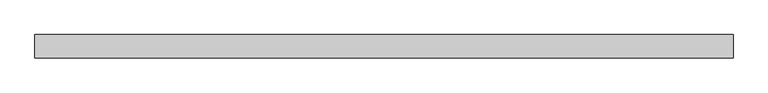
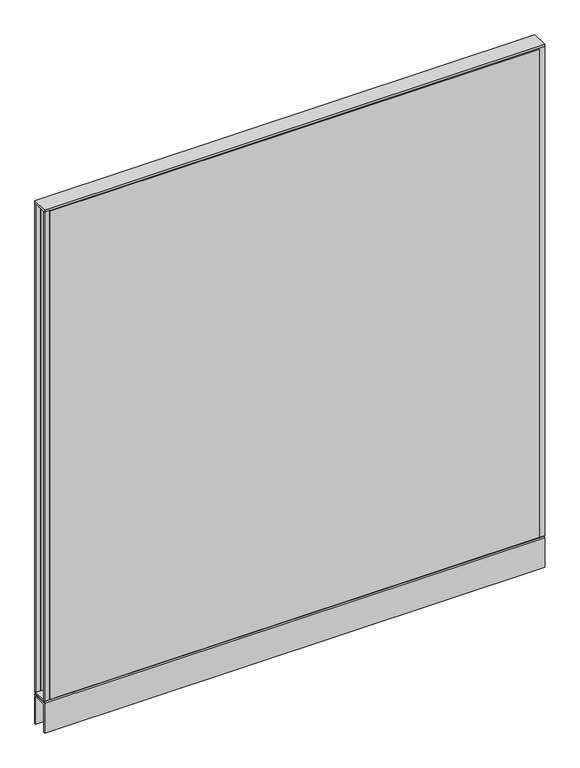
"""IFC4 building model written with IfcOpenShell, lengths in millimetres: furniture geometry, Steelcase - Kick Solutions - Panel - Monolithic - Tackable Acoustical : 66H x 60W."""

from ifc_helpers import new_model, si_unit, frame, origin, place, context, project, spatial, polyline, outline, extrude, source, transform, mapped, element, save


def furniture_6c23b849(model_context):
    return source(origin(), model_context, "Body", "SweptSolid", [
        extrude(outline(polyline([(0.0, 101.7169049), (-3.1750015, 101.7169049), (-3.1750015, 1676.5169018), (0.0, 1673.4357466), (0.0, 101.7169049)])), frame((15.8749996, 0.0, 0.0), z_axis=(1.0, 0.0, 0.0), x_axis=(0.0, 1.0, 0.0)), (0.0, 0.0, 1.0), 1492.2500008),
        extrude(outline(polyline([(-50.8000015, 101.7169049), (-50.8000015, 1673.4357466), (-47.625, 1676.5169018), (-47.625, 101.7169049), (-50.8000015, 101.7169049)])), frame((15.8749996, 0.0, 0.0), z_axis=(1.0, 0.0, 0.0), x_axis=(0.0, 1.0, 0.0)), (0.0, 0.0, 1.0), 1492.2500008),
        extrude(outline(polyline([(1524.0, -3.1750015), (1508.1250004, -3.1750015), (1508.1250004, 0.0), (1524.0, 0.0), (1524.0, -3.1750015)])), frame((0.0, 0.0, 101.7169049), z_axis=(0.0, 0.0, 1.0), x_axis=(1.0, 0.0, 0.0)), (0.0, 0.0, 1.0), 1574.799997),
        extrude(outline(polyline([(15.8749996, -50.8000015), (0.0, -50.8000015), (0.0, -47.625), (15.8749996, -47.625), (15.8749996, -50.8000015)])), frame((0.0, 0.0, 101.7169049), z_axis=(0.0, 0.0, 1.0), x_axis=(1.0, 0.0, 0.0)), (0.0, 0.0, 1.0), 1574.799997),
        extrude(outline(polyline([(-50.7995075, 101.7169049), (-0.000494, 101.7169049), (-3.0583512, 98.5421458), (-47.7416503, 98.5421458), (-50.7995075, 101.7169049)])), frame((0.0, 0.0, 0.0), z_axis=(1.0, 0.0, 0.0), x_axis=(0.0, 1.0, 0.0)), (0.0, 0.0, 1.0), 1524.0),
        extrude(outline(polyline([(1524.0, 0.0), (1524.0, -50.8000015), (0.0, -50.8000015), (0.0, 0.0), (1524.0, 0.0)])), frame((0.0, 0.0, 1676.5169018), z_axis=(0.0, 0.0, 1.0), x_axis=(1.0, 0.0, 0.0)), (0.0, 0.0, 1.0), 6.35),
        extrude(outline(polyline([(15.8749996, -3.1750015), (0.0, -3.1750015), (0.0, 0.0), (15.8749996, 0.0), (15.8749996, -3.1750015)])), frame((0.0, 0.0, 101.7169049), z_axis=(0.0, 0.0, 1.0), x_axis=(1.0, 0.0, 0.0)), (0.0, 0.0, 1.0), 1574.799997),
        extrude(outline(polyline([(1524.0, -50.8000015), (1508.1250004, -50.8000015), (1508.1250004, -47.625), (1524.0, -47.625), (1524.0, -50.8000015)])), frame((0.0, 0.0, 101.7169049), z_axis=(0.0, 0.0, 1.0), x_axis=(1.0, 0.0, 0.0)), (0.0, 0.0, 1.0), 1574.799997),
        extrude(outline(polyline([(-50.8000015, 95.3668927), (-47.6247484, 98.5421458), (-3.1752531, 98.5421458), (0.0, 95.3668927), (-50.8000015, 95.3668927)])), frame((0.0, 0.0, 0.0), z_axis=(1.0, 0.0, 0.0), x_axis=(0.0, 1.0, 0.0)), (0.0, 0.0, 1.0), 1524.0),
        extrude(outline(polyline([(0.0, 0.0), (-5.08, 0.0), (-5.08, 90.2869018), (-45.7200015, 90.2869018), (-45.7200015, 0.0), (-50.8000015, 0.0), (-50.8000015, 95.3669018), (0.0, 95.3669018), (0.0, 0.0)])), frame((0.0, 0.0, 0.0), z_axis=(1.0, 0.0, 0.0), x_axis=(0.0, 1.0, 0.0)), (0.0, 0.0, 1.0), 1524.0),
    ])


if __name__ == "__main__":
    model = new_model("IFC4")
    model_context = context("Model", 3, world=origin())
    ifc_project = project(units=[si_unit("LENGTHUNIT", "METRE", prefix="MILLI")], contexts=[model_context])
    site = spatial("IfcSite", under=ifc_project)
    building = spatial("IfcBuilding", under=site)
    placement = place(None, origin())
    furniture_shape = furniture_6c23b849(model_context)
    element("IfcFurniture", 1, ObjectType="Steelcase - Kick Solutions - Panel - Monolithic - Tackable Acoustical : 66H x 60W", at=placement, inside=building, context=model_context, shape_type="MappedRepresentation", body=[
        mapped(furniture_shape, transform((0.0, 0.0, 0.0), x_axis=(1.0, 0.0, 0.0), y_axis=(0.0, 1.0, 0.0), z_axis=(0.0, 0.0, 1.0))),
    ])
    save(model, "model.ifc")
